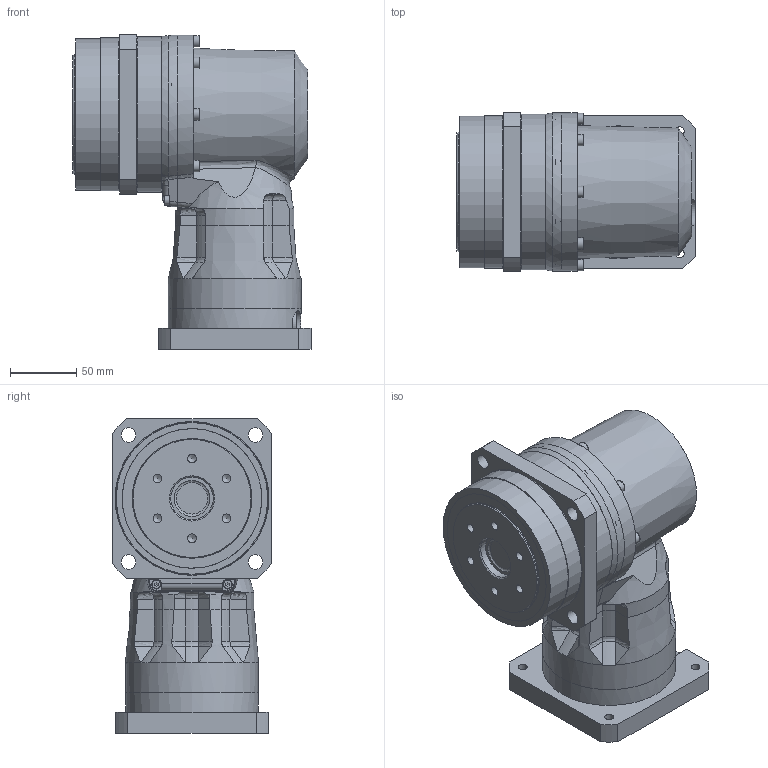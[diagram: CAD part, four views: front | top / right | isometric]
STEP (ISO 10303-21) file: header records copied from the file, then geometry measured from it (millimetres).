
FILE_DESCRIPTION(/* description */ ('ANFX-PK130F-2-M50G'),/* implementation_level */ '2;1');
FILE_NAME(/* name */ 'C:\Users\ADMINI~1\AppData\Local\Temp\MM582275_ANFX-PK130F-2-M50G.stp',/* time_stamp */ '2018-07-11T08:30:56+02:00',/* author */ ('Max'),/* organization */ (''),/* preprocessor_version */ 'ST-DEVELOPER v17',/* originating_system */ 'Autodesk Inventor 2018',/* authorisation */ '');
FILE_SCHEMA (('AUTOMOTIVE_DESIGN { 1 0 10303 214 3 1 1 }'));
Length unit declared in the file: millimetre
Products named in the file (22): MM581710; MMBG0004105; MMCM057LG; MMAF787LG; 5006008RS---G; MMAP6504G; 009M005R014NG; M530A406212--G; 211458; M214303; 200458; MMBG0004078; MMCL445LG; MMCM226LG; MAX4841G; MAW8388G; MMBG0004116; MMAF790LG; 213890; 133629; MAW8794G; 204174
Assembly tree (51 placements, depth 3):
  MM581710
    MMBG0004105
      MMCM057LG
      MMAF787LG
      5006008RS---G
      MMAP6504G
      009M005R014NG
      M530A406212--G
      211458  x2
      M214303  x8
      200458  x7
    MMBG0004078
      MMCL445LG
      MMCM226LG
      MAX4841G
      MAW8388G
    MMBG0004116
      MMAF790LG
      213890  x10
    133629
    MAW8794G
    204174  x8
Bounding box: 179 x 120 x 236.7 mm (x, y, z)
Volume: 1497153.5 mm3; surface area: 416504.2 mm2
Topology: 107 solids, 108 shells, 1182 faces, 3271 edges, 2289 vertices
Faces by surface type: plane 551, cylinder 300, cone 135, torus 77, bspline 61, sphere 58
Full cylindrical faces by diameter (mm): 3.242 x10, 4 x11, 4.134 x16, 4.5 x10, 4.917 x8, 5 x16, 5.5 x16, 6 x8, 6.6 x8, 6.647 x10, 7 x10, 8 x8, 8.5 x16, 8.566 x2, 10 x8, 11 x12, 15 x3, 15.2 x1, 15.6 x1, 18 x1, 20.5 x1, 28 x1, 32 x1, 35 x1, 37 x1, 38 x1, 39.4 x1, 39.6 x1, 40 x2, 42 x1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
Entity records: 26949 total; most frequent: CARTESIAN_POINT 6257, DIRECTION 4407, ORIENTED_EDGE 3892, EDGE_CURVE 1946, AXIS2_PLACEMENT_3D 1866, VERTEX_POINT 1464, CIRCLE 1059, EDGE_LOOP 982
